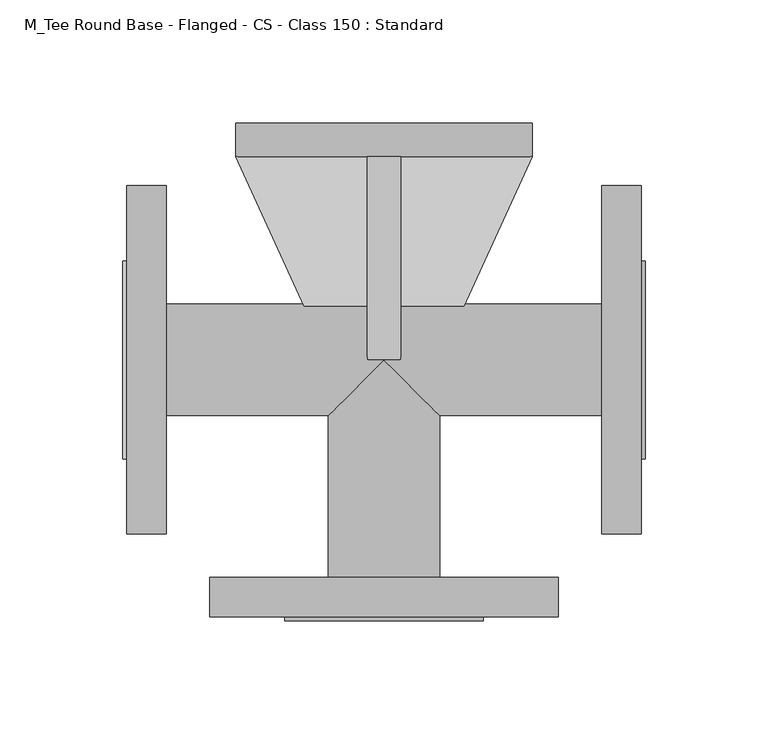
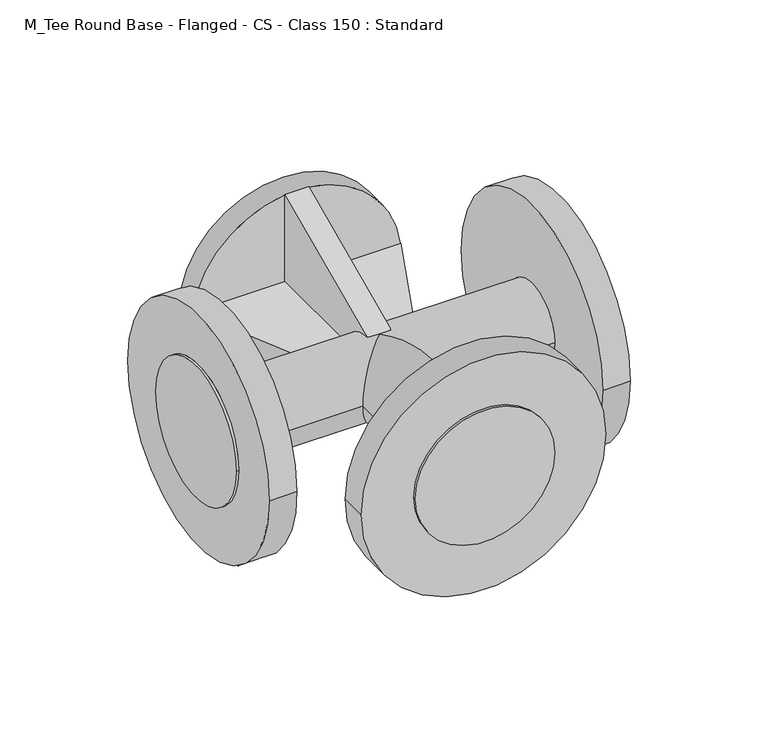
"""IFC4 building model written with IfcOpenShell, lengths in millimetres: pipe fitting geometry, M_Tee Round Base - Flanged - CS - Class 150 : Standard."""

import ifcopenshell
import ifcopenshell.guid

model = None  # the IFC model being written
_history = None  # IfcOwnerHistory: only IFC2X3 demands one
_inside = {}  # id of a spatial element -> (the spatial element, [elements in it])
_under = {}  # id of a project, library or spatial element -> (it, [spatial elements below it])
_declared = {}  # id of a project -> (the project, [libraries it declares])
_typed = {}  # id of a type object -> (the type object, [elements of that type])
_made_of = {}  # id of a material, layer set ... -> (it, [elements and type objects made of it])


def new_model(schema):
    """Start an empty IFC model of exactly this schema.

    Asked for "IFC4X3", IfcOpenShell would pick the latest addendum, in which some entities
    have other attributes; the version numbers below select the first issue.
    IFC2X3 requires an IfcOwnerHistory on every rooted entity: one is made here for all.
    """
    global model, _history
    if schema == "IFC4X3":
        model = ifcopenshell.file(schema_version=(4, 3, 0, 0))
    else:
        model = ifcopenshell.file(schema=schema)
    _inside.clear()
    _under.clear()
    _declared.clear()
    _typed.clear()
    _made_of.clear()
    _history = None
    if model.schema == "IFC2X3":
        org = make("IfcOrganization", Name="unknown")
        user = make(
            "IfcPersonAndOrganization",
            ThePerson=make("IfcPerson", FamilyName="unknown"),
            TheOrganization=org,
        )
        app = make(
            "IfcApplication",
            ApplicationDeveloper=org,
            Version="unknown",
            ApplicationFullName="unknown",
            ApplicationIdentifier="unknown",
        )
        _history = make(
            "IfcOwnerHistory",
            OwningUser=user,
            OwningApplication=app,
            ChangeAction="ADDED",
            CreationDate=0,
        )
    return model


def make(cls, **values):
    """One entity of the class cls with the attributes given. An attribute that is None is left unset."""
    return model.create_entity(
        cls, **{name: value for name, value in values.items() if value is not None}
    )


def rooted(cls, **values):
    """An entity with a GlobalId (a new one), such as an element, a storey or a relation."""
    return make(cls, GlobalId=ifcopenshell.guid.new(), OwnerHistory=_history, **values)


def si_unit(unit_type, name, prefix=None):
    """IfcSIUnit, for example si_unit("LENGTHUNIT", "METRE", prefix="MILLI")."""
    return make("IfcSIUnit", UnitType=unit_type, Prefix=prefix, Name=name)


def assignment(units):
    """IfcUnitAssignment: the units of a project."""
    return None if units is None else make("IfcUnitAssignment", Units=units)


def point(xyz):
    """IfcCartesianPoint."""
    return None if xyz is None else make("IfcCartesianPoint", Coordinates=xyz)


def direction(xyz):
    """IfcDirection."""
    return None if xyz is None else make("IfcDirection", DirectionRatios=xyz)


def frame(location, z_axis=None, x_axis=None):
    """IfcAxis2Placement3D, a coordinate frame: its origin and axes. An axis left out is left unset."""
    return make(
        "IfcAxis2Placement3D",
        Location=point(location),
        Axis=direction(z_axis),
        RefDirection=direction(x_axis),
    )


def origin():
    """The frame at (0, 0, 0) with its axes left unset."""
    return frame((0.0, 0.0, 0.0))


def place(relative_to, where):
    """IfcLocalPlacement: puts the frame where relative to a parent placement (None: the world)."""
    return make(
        "IfcLocalPlacement", PlacementRelTo=relative_to, RelativePlacement=where
    )


def context(
    kind, dimensions, precision=None, world=None, true_north=None, identifier=None
):
    """IfcGeometricRepresentationContext, for example the 3D "Model" context."""
    return make(
        "IfcGeometricRepresentationContext",
        ContextIdentifier=identifier,
        ContextType=kind,
        CoordinateSpaceDimension=dimensions,
        Precision=precision,
        WorldCoordinateSystem=world,
        TrueNorth=true_north,
    )


def project(units=None, contexts=None):
    """IfcProject with its units and contexts."""
    return rooted(
        "IfcProject",
        Name="project",
        RepresentationContexts=contexts,
        UnitsInContext=assignment(units),
    )


def spatial(cls, under=None, at=None, **own):
    """A site, building, storey or space (cls), placed at a placement, below another one or the project."""
    s = rooted(cls, ObjectPlacement=at, **own)
    if under is not None:
        _under.setdefault(under.id(), (under, []))[1].append(s)
    return s


def circle_curve(where, radius):
    """IfcCircle in the frame where."""
    return make("IfcCircle", Position=where, Radius=radius)


def ellipse_curve(where, semi_axis1, semi_axis2):
    """IfcEllipse in the frame where."""
    return make(
        "IfcEllipse", Position=where, SemiAxis1=semi_axis1, SemiAxis2=semi_axis2
    )


def shape(context_of_items, identifier, shape_type, items):
    """IfcShapeRepresentation: the items that make up one representation, for example the "Body"."""
    return make(
        "IfcShapeRepresentation",
        ContextOfItems=context_of_items,
        RepresentationIdentifier=identifier,
        RepresentationType=shape_type,
        Items=items,
    )


def source(mapping_origin, context_of_items, identifier, shape_type, items):
    """IfcRepresentationMap: a shape defined once, which mapped items show again and again."""
    return make(
        "IfcRepresentationMap",
        MappingOrigin=mapping_origin,
        MappedRepresentation=shape(context_of_items, identifier, shape_type, items),
    )


def transform(
    local_origin,
    x_axis=None,
    y_axis=None,
    z_axis=None,
    scale=None,
    scale2=None,
    scale3=None,
    uniform=True,
):
    """IfcCartesianTransformationOperator3D, or its non-uniform kind. x_axis, y_axis, z_axis: its Axis1, 2, 3."""
    if uniform:
        return make(
            "IfcCartesianTransformationOperator3D",
            Axis1=direction(x_axis),
            Axis2=direction(y_axis),
            LocalOrigin=point(local_origin),
            Scale=scale,
            Axis3=direction(z_axis),
        )
    return make(
        "IfcCartesianTransformationOperator3DnonUniform",
        Axis1=direction(x_axis),
        Axis2=direction(y_axis),
        LocalOrigin=point(local_origin),
        Scale=scale,
        Axis3=direction(z_axis),
        Scale2=scale2,
        Scale3=scale3,
    )


def mapped(mapping_source, mapping_target):
    """IfcMappedItem: shows the shape of a source again, moved by a transform."""
    return make(
        "IfcMappedItem", MappingSource=mapping_source, MappingTarget=mapping_target
    )


def made_of(thing, what):
    """Note that an element or type object is made of a material, layer set ...; save() writes the relation."""
    if what is not None:
        _made_of.setdefault(what.id(), (what, []))[1].append(thing)
    return thing


def element(
    cls,
    number,
    at=None,
    inside=None,
    cuts=None,
    type_object=None,
    material=None,
    context=None,
    identifier="Body",
    shape_type=None,
    held_by="IfcProductDefinitionShape",
    body=None,
    shapes=None,
    **own,
):
    """One element of the class cls, such as IfcWall. Its Tag is "e" and its number.

    at: its placement. inside: the storey or other place that contains it. cuts: it is an
    opening in that element (IfcRelVoidsElement). A single representation is given by context,
    identifier, shape_type and body (its items); several are given by shapes. held_by: the class
    of the entity that holds the representations. save() writes the other relations.
    """
    e = rooted(cls, Tag="e%d" % number, ObjectPlacement=at, **own)
    if body is not None:
        shapes = [shape(context, identifier, shape_type, body)]
    if shapes is not None:
        e.Representation = make(held_by, Representations=shapes)
    if inside is not None:
        _inside.setdefault(inside.id(), (inside, []))[1].append(e)
    if cuts is not None:
        rooted(
            "IfcRelVoidsElement", RelatingBuildingElement=cuts, RelatedOpeningElement=e
        )
    if type_object is not None:
        _typed.setdefault(type_object.id(), (type_object, []))[1].append(e)
    return made_of(e, material)


def aggregate(whole, parts):
    """IfcRelAggregates: a whole, such as a stair, and the parts it consists of."""
    return rooted("IfcRelAggregates", RelatingObject=whole, RelatedObjects=parts)


def save(model, path):
    """Write the relations noted so far, then the file.

    IfcRelAggregates (storeys below a building ...), IfcRelContainedInSpatialStructure (elements
    in a storey), IfcRelDefinesByType, IfcRelAssociatesMaterial and IfcRelDeclares: one each for
    every whole, place, type object, material and project.
    """
    for whole, parts in _under.values():
        aggregate(whole, parts)
    for where, things in _inside.values():
        rooted(
            "IfcRelContainedInSpatialStructure",
            RelatedElements=things,
            RelatingStructure=where,
        )
    for kind, things in _typed.values():
        rooted("IfcRelDefinesByType", RelatedObjects=things, RelatingType=kind)
    for what, things in _made_of.values():
        rooted("IfcRelAssociatesMaterial", RelatedObjects=things, RelatingMaterial=what)
    for by, libraries in _declared.values():
        rooted("IfcRelDeclares", RelatingContext=by, RelatedDefinitions=libraries)
    model.write(path)


def plane_surface(at):
    """IfcPlane: the flat surface through the origin of the frame at, square to its z axis."""
    return make("IfcPlane", Position=at)


def cylinder_surface(at, radius):
    """IfcCylindricalSurface: all points at the distance radius from the z axis of the frame at."""
    return make("IfcCylindricalSurface", Position=at, Radius=radius)


def advanced_brep(points, edges, surfaces, faces):
    """IfcAdvancedBrep: a solid bounded by faces that lie on surfaces and meet in shared edges.

    An edge is (start, end): straight between two places in points (the first is 0);
    or (start, end, curve); or (start, end, curve, False) where it runs against its curve.
    A face is (place in surfaces, loops), or (place, loops, False) where it looks against
    its surface's normal. A loop lists edges by number (the first is 1), with a minus sign
    where the edge is run from its end to its start. The first loop is the outer one.
    """
    corners = [point(p) for p in points]
    vertices = [make("IfcVertexPoint", VertexGeometry=c) for c in corners]
    made = []
    for start, end, *more in edges:
        made.append(
            make(
                "IfcEdgeCurve",
                EdgeStart=vertices[start],
                EdgeEnd=vertices[end],
                EdgeGeometry=more[0] if more else make("IfcPolyline", Points=[corners[start], corners[end]]),
                SameSense=more[1] if len(more) > 1 else True,
            )
        )
    hull = []
    for where, loops, *sense in faces:
        bounds = []
        for j, loop in enumerate(loops):
            ring = [make("IfcOrientedEdge", EdgeElement=made[abs(k) - 1], Orientation=k > 0) for k in loop]
            bounds.append(
                make(
                    "IfcFaceOuterBound" if j == 0 else "IfcFaceBound",
                    Bound=make("IfcEdgeLoop", EdgeList=ring),
                    Orientation=True,
                )
            )
        hull.append(make("IfcAdvancedFace", Bounds=bounds, FaceSurface=surfaces[where], SameSense=sense[0] if sense else True))
    return make("IfcAdvancedBrep", Outer=make("IfcClosedShell", CfsFaces=hull))


def m_tee_round_base_flanged_cs_class_150_standard_9c9133d0(model_context):
    return source(origin(), model_context, "Body", "AdvancedBrep", [
        advanced_brep(
        [(88.524375, -22.6588281, 0.0), (88.524375, 22.6588281, 0.0), (32.9704859, 22.6588281, 0.0), (32.4837149, 21.5891979, 6.8796094), (6.8796094, 21.5891979, 6.8796094), (6.8796094, 0.0, 22.6588281), (0.0, 0.0, 22.6588281), (22.6588281, -22.6588281, 0.0), (0.0, 0.0, -22.6588281), (6.8796094, 0.0, -22.6588281), (6.8796094, 21.5891979, -6.8796094), (32.4837149, 21.5891979, -6.8796094), (-88.524375, 22.6588281, 0.0), (-88.524375, -22.6588281, 0.0), (-22.6588281, -22.6588281, 0.0), (-6.8796094, 0.0, 22.6588281), (-6.8796094, 21.5891979, 6.8796094), (-32.4837149, 21.5891979, 6.8796094), (-32.9704859, 22.6588281, 0.0), (-32.4837149, 21.5891979, -6.8796094), (-6.8796094, 21.5891979, -6.8796094), (-6.8796094, 0.0, -22.6588281), (-104.5110937, -70.8433594, 0.0), (-104.5110937, 70.8433594, 0.0), (-104.5110937, 40.2714844, 0.0), (-104.5110937, -40.2714844, 0.0), (-88.524375, -70.8433594, 0.0), (-88.524375, 70.8433594, 0.0), (88.524375, -70.8433594, 0.0), (88.524375, 70.8433594, 0.0), (104.5110937, -70.8433594, 0.0), (104.5110937, 70.8433594, 0.0), (104.5110937, -40.2714844, 0.0), (104.5110937, 40.2714844, 0.0), (-106.0985937, 40.2714844, 0.0), (-106.0985937, -40.2714844, 0.0), (106.0985938, -40.2714844, 0.0), (106.0985938, 40.2714844, 0.0), (22.6588281, -88.524375, 0.0), (-22.6588281, -88.524375, 0.0), (-70.8433594, -88.524375, 0.0), (70.8433594, -88.524375, 0.0), (-70.8433594, -104.5110938, 0.0), (70.8433594, -104.5110938, 0.0), (-40.2714844, -104.5110938, 0.0), (40.2714844, -104.5110938, 0.0), (-40.2714844, -106.0985938, 0.0), (40.2714844, -106.0985938, 0.0), (-60.2547656, 82.6132812, 6.8796094), (-6.8796094, 82.6132812, 6.8796094), (-59.8607363, 82.6132812, 6.8796094), (60.2547656, 82.6132812, 6.8796094), (59.8607363, 82.6132812, 6.8796094), (6.8796094, 82.6132812, 6.8796094), (60.2547656, 82.6132812, -6.8796094), (6.8796094, 82.6132812, -6.8796094), (59.8607363, 82.6132812, -6.8796094), (-60.2547656, 82.6132812, -6.8796094), (-59.8607363, 82.6132812, -6.8796094), (-6.8796094, 82.6132812, -6.8796094), (-60.2547656, 82.6132812, 0.0), (60.2547656, 82.6132812, 0.0), (6.8796094, 82.6132812, -60.2547656), (0.0, 82.6132812, -60.2547656), (6.8796094, 82.6132812, -59.8607363), (-6.8796094, 82.6132812, -60.2547656), (-6.8796094, 82.6132812, -59.8607363), (6.8796094, 82.6132812, 60.2547656), (6.8796094, 82.6132812, 59.8607363), (0.0, 82.6132812, 60.2547656), (-6.8796094, 82.6132812, 59.8607363), (-6.8796094, 82.6132812, 60.2547656), (-60.2547656, 96.3725, 0.0), (60.2547656, 96.3725, 0.0)],
        [
            (0, 1, circle_curve(frame((88.524375, 0.0, 0.0), z_axis=(-1.0, 0.0, 0.0), x_axis=(0.0, 1.0, 0.0)), 22.6588281)),
            (1, 2),
            (2, 3, ellipse_curve(frame((22.6588281, 0.0, 0.0), z_axis=(0.9101819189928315, -0.41420873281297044, 0.0), x_axis=(-0.41420873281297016, -0.9101819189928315, 0.0)), 24.8948344, 22.6588281)),
            (3, 4),
            (4, 5, circle_curve(frame((6.8796094, 0.0, 0.0), z_axis=(1.0, 0.0, 0.0), x_axis=(0.0, 1.0, 0.0)), 22.6588281)),
            (5, 6),
            (6, 7, ellipse_curve(frame((0.0, 0.0, 0.0), z_axis=(0.7071067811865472, 0.7071067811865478, 0.0), x_axis=(-0.7071067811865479, 0.7071067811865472, 0.0)), 32.044422, 22.6588281)),
            (7, 0),
            (1, 0, circle_curve(frame((88.524375, 0.0, 0.0), z_axis=(-1.0, 0.0, 0.0), x_axis=(0.0, 1.0, 0.0)), 22.6588281)),
            (7, 8, ellipse_curve(frame((0.0, 0.0, 0.0), z_axis=(0.7071067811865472, 0.7071067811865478, 0.0), x_axis=(-0.7071067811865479, 0.7071067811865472, 0.0)), 32.044422, 22.6588281)),
            (8, 9),
            (9, 10, circle_curve(frame((6.8796094, 0.0, 0.0), z_axis=(1.0, 0.0, 0.0), x_axis=(0.0, 1.0, 0.0)), 22.6588281)),
            (10, 11),
            (11, 2, ellipse_curve(frame((22.6588281, 0.0, 0.0), z_axis=(0.9101819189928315, -0.41420873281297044, 0.0), x_axis=(-0.41420873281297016, -0.9101819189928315, 0.0)), 24.8948344, 22.6588281)),
            (12, 13, circle_curve(frame((-88.524375, 0.0, 0.0), z_axis=(1.0, 0.0, 0.0), x_axis=(0.0, 1.0, 0.0)), 22.6588281)),
            (13, 14),
            (14, 6, ellipse_curve(frame((0.0, 0.0, 0.0), z_axis=(-0.7071067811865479, 0.7071067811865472, 0.0), x_axis=(-0.707106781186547, -0.7071067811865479, 0.0)), 32.044422, 22.6588281)),
            (6, 15),
            (15, 16, circle_curve(frame((-6.8796094, 0.0, 0.0), z_axis=(-1.0, 0.0, 0.0), x_axis=(0.0, 1.0, 0.0)), 22.6588281)),
            (16, 17),
            (17, 18, ellipse_curve(frame((-22.6588281, 0.0, 0.0), z_axis=(-0.9101819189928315, -0.4142087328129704, 0.0), x_axis=(-0.41420873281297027, 0.9101819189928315, 0.0)), 24.8948344, 22.6588281)),
            (18, 12),
            (13, 12, circle_curve(frame((-88.524375, 0.0, 0.0), z_axis=(1.0, 0.0, 0.0), x_axis=(0.0, 1.0, 0.0)), 22.6588281)),
            (18, 19, ellipse_curve(frame((-22.6588281, 0.0, 0.0), z_axis=(-0.9101819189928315, -0.4142087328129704, 0.0), x_axis=(-0.41420873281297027, 0.9101819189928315, 0.0)), 24.8948344, 22.6588281)),
            (19, 20),
            (20, 21, circle_curve(frame((-6.8796094, 0.0, 0.0), z_axis=(-1.0, 0.0, 0.0), x_axis=(0.0, 1.0, 0.0)), 22.6588281)),
            (21, 8),
            (8, 14, ellipse_curve(frame((0.0, 0.0, 0.0), z_axis=(-0.7071067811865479, 0.7071067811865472, 0.0), x_axis=(-0.707106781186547, -0.7071067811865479, 0.0)), 32.044422, 22.6588281)),
            (22, 23, circle_curve(frame((-104.5110937, 0.0, 0.0), z_axis=(-1.0, 0.0, 0.0), x_axis=(0.0, 1.0, 0.0)), 70.8433594)),
            (23, 22, circle_curve(frame((-104.5110937, 0.0, 0.0), z_axis=(-1.0, 0.0, 0.0), x_axis=(0.0, 1.0, 0.0)), 70.8433594)),
            (24, 25, circle_curve(frame((-104.5110937, 0.0, 0.0), z_axis=(1.0, 0.0, 0.0), x_axis=(0.0, -1.0, 0.0)), 40.2714844)),
            (25, 24, circle_curve(frame((-104.5110937, 0.0, 0.0), z_axis=(1.0, 0.0, 0.0), x_axis=(0.0, -1.0, 0.0)), 40.2714844)),
            (26, 27, circle_curve(frame((-88.524375, 0.0, 0.0), z_axis=(1.0, 0.0, 0.0), x_axis=(0.0, 1.0, 0.0)), 70.8433594)),
            (27, 26, circle_curve(frame((-88.524375, 0.0, 0.0), z_axis=(1.0, 0.0, 0.0), x_axis=(0.0, 1.0, 0.0)), 70.8433594)),
            (22, 26),
            (27, 23),
            (28, 29, circle_curve(frame((88.524375, 0.0, 0.0), z_axis=(-1.0, 0.0, 0.0), x_axis=(0.0, 1.0, 0.0)), 70.8433594)),
            (29, 28, circle_curve(frame((88.524375, 0.0, 0.0), z_axis=(-1.0, 0.0, 0.0), x_axis=(0.0, 1.0, 0.0)), 70.8433594)),
            (30, 31, circle_curve(frame((104.5110937, 0.0, 0.0), z_axis=(1.0, 0.0, 0.0), x_axis=(0.0, 1.0, 0.0)), 70.8433594)),
            (31, 30, circle_curve(frame((104.5110937, 0.0, 0.0), z_axis=(1.0, 0.0, 0.0), x_axis=(0.0, 1.0, 0.0)), 70.8433594)),
            (32, 33, circle_curve(frame((104.5110937, 0.0, 0.0), z_axis=(-1.0, 0.0, 0.0), x_axis=(0.0, 1.0, 0.0)), 40.2714844)),
            (33, 32, circle_curve(frame((104.5110937, 0.0, 0.0), z_axis=(-1.0, 0.0, 0.0), x_axis=(0.0, 1.0, 0.0)), 40.2714844)),
            (28, 30),
            (31, 29),
            (34, 35, circle_curve(frame((-106.0985937, 0.0, 0.0), z_axis=(-1.0, 0.0, 0.0), x_axis=(0.0, -1.0, 0.0)), 40.2714844)),
            (35, 34, circle_curve(frame((-106.0985937, 0.0, 0.0), z_axis=(-1.0, 0.0, 0.0), x_axis=(0.0, -1.0, 0.0)), 40.2714844)),
            (35, 25),
            (24, 34),
            (36, 37, circle_curve(frame((106.0985938, 0.0, 0.0), z_axis=(1.0, 0.0, 0.0), x_axis=(0.0, 1.0, 0.0)), 40.2714844)),
            (37, 36, circle_curve(frame((106.0985938, 0.0, 0.0), z_axis=(1.0, 0.0, 0.0), x_axis=(0.0, 1.0, 0.0)), 40.2714844)),
            (37, 33),
            (32, 36),
            (38, 7),
            (14, 39),
            (39, 38, circle_curve(frame((0.0, -88.524375, 0.0), z_axis=(0.0, 1.0, 0.0), x_axis=(1.0, 0.0, 0.0)), 22.6588281)),
            (38, 39, circle_curve(frame((0.0, -88.524375, 0.0), z_axis=(0.0, 1.0, 0.0), x_axis=(1.0, 0.0, 0.0)), 22.6588281)),
            (40, 41, circle_curve(frame((0.0, -88.524375, 0.0), z_axis=(0.0, 1.0, 0.0), x_axis=(1.0, 0.0, 0.0)), 70.8433594)),
            (41, 40, circle_curve(frame((0.0, -88.524375, 0.0), z_axis=(0.0, 1.0, 0.0), x_axis=(1.0, 0.0, 0.0)), 70.8433594)),
            (42, 43, circle_curve(frame((0.0, -104.5110938, 0.0), z_axis=(0.0, -1.0, 0.0), x_axis=(1.0, 0.0, 0.0)), 70.8433594)),
            (43, 42, circle_curve(frame((0.0, -104.5110938, 0.0), z_axis=(0.0, -1.0, 0.0), x_axis=(1.0, 0.0, 0.0)), 70.8433594)),
            (44, 45, circle_curve(frame((0.0, -104.5110938, 0.0), z_axis=(0.0, 1.0, 0.0), x_axis=(1.0, 0.0, 0.0)), 40.2714844)),
            (45, 44, circle_curve(frame((0.0, -104.5110938, 0.0), z_axis=(0.0, 1.0, 0.0), x_axis=(1.0, 0.0, 0.0)), 40.2714844)),
            (40, 42),
            (43, 41),
            (46, 47, circle_curve(frame((0.0, -106.0985938, 0.0), z_axis=(0.0, -1.0, 0.0), x_axis=(1.0, 0.0, 0.0)), 40.2714844)),
            (47, 46, circle_curve(frame((0.0, -106.0985938, 0.0), z_axis=(0.0, -1.0, 0.0), x_axis=(1.0, 0.0, 0.0)), 40.2714844)),
            (47, 45),
            (44, 46),
            (48, 17),
            (16, 49),
            (49, 50),
            (50, 48),
            (3, 51),
            (51, 52),
            (52, 53),
            (53, 4),
            (54, 11),
            (10, 55),
            (55, 56),
            (56, 54),
            (19, 57),
            (57, 58),
            (58, 59),
            (59, 20),
            (50, 60, circle_curve(frame((0.0, 82.6132812, 0.0), z_axis=(0.0, -1.0, 0.0), x_axis=(1.0, 0.0, 0.0)), 60.2547656)),
            (60, 48),
            (51, 61),
            (61, 52, circle_curve(frame((0.0, 82.6132812, 0.0), z_axis=(0.0, -1.0, 0.0), x_axis=(1.0, 0.0, 0.0)), 60.2547656)),
            (56, 61, circle_curve(frame((0.0, 82.6132812, 0.0), z_axis=(0.0, -1.0, 0.0), x_axis=(1.0, 0.0, 0.0)), 60.2547656)),
            (61, 54),
            (57, 60),
            (60, 58, circle_curve(frame((0.0, 82.6132812, 0.0), z_axis=(0.0, -1.0, 0.0), x_axis=(1.0, 0.0, 0.0)), 60.2547656)),
            (62, 63),
            (63, 64, circle_curve(frame((0.0, 82.6132812, 0.0), z_axis=(0.0, -1.0, 0.0), x_axis=(1.0, 0.0, 0.0)), 60.2547656)),
            (64, 62),
            (63, 65),
            (65, 66),
            (66, 63, circle_curve(frame((0.0, 82.6132812, 0.0), z_axis=(0.0, -1.0, 0.0), x_axis=(1.0, 0.0, 0.0)), 60.2547656)),
            (67, 68),
            (68, 69, circle_curve(frame((0.0, 82.6132812, 0.0), z_axis=(0.0, -1.0, 0.0), x_axis=(1.0, 0.0, 0.0)), 60.2547656)),
            (69, 67),
            (70, 71),
            (71, 69),
            (69, 70, circle_curve(frame((0.0, 82.6132812, 0.0), z_axis=(0.0, -1.0, 0.0), x_axis=(1.0, 0.0, 0.0)), 60.2547656)),
            (67, 5),
            (53, 68),
            (9, 62),
            (64, 55),
            (65, 21),
            (59, 66),
            (15, 71),
            (70, 49),
            (72, 73, circle_curve(frame((0.0, 96.3725, 0.0), z_axis=(0.0, 1.0, 0.0), x_axis=(1.0, 0.0, 0.0)), 60.2547656)),
            (73, 72, circle_curve(frame((0.0, 96.3725, 0.0), z_axis=(0.0, 1.0, 0.0), x_axis=(1.0, 0.0, 0.0)), 60.2547656)),
            (52, 68, circle_curve(frame((0.0, 82.6132812, 0.0), z_axis=(0.0, -1.0, 0.0), x_axis=(1.0, 0.0, 0.0)), 60.2547656)),
            (64, 56, circle_curve(frame((0.0, 82.6132812, 0.0), z_axis=(0.0, -1.0, 0.0), x_axis=(1.0, 0.0, 0.0)), 60.2547656)),
            (58, 66, circle_curve(frame((0.0, 82.6132812, 0.0), z_axis=(0.0, -1.0, 0.0), x_axis=(1.0, 0.0, 0.0)), 60.2547656)),
            (70, 50, circle_curve(frame((0.0, 82.6132812, 0.0), z_axis=(0.0, -1.0, 0.0), x_axis=(1.0, 0.0, 0.0)), 60.2547656)),
            (72, 60),
            (61, 73),
        ],
        [
            cylinder_surface(frame((0.0, 0.0, 0.0), z_axis=(-1.0, 0.0, 0.0), x_axis=(0.0, 1.0, 0.0)), 22.6588281),
            cylinder_surface(frame((-88.524375, 0.0, 0.0), z_axis=(-1.0, 0.0, 0.0), x_axis=(0.0, 1.0, 0.0)), 22.6588281),
            plane_surface(frame((-104.5110937, 0.0, 0.0), z_axis=(-1.0, 0.0, 0.0), x_axis=(0.0, 0.0, 1.0))),
            plane_surface(frame((-88.524375, 0.0, 0.0), z_axis=(1.0, 0.0, 0.0), x_axis=(0.0, 0.0, 1.0))),
            cylinder_surface(frame((-104.5110937, 0.0, 0.0), z_axis=(-1.0, 0.0, 0.0), x_axis=(0.0, 1.0, 0.0)), 70.8433594),
            plane_surface(frame((88.524375, 0.0, 0.0), z_axis=(-1.0, 0.0, 0.0), x_axis=(0.0, 0.0, 1.0))),
            plane_surface(frame((104.5110937, 0.0, 0.0), z_axis=(1.0, 0.0, 0.0), x_axis=(0.0, 0.0, 1.0))),
            cylinder_surface(frame((88.524375, 0.0, 0.0), z_axis=(-1.0, 0.0, 0.0), x_axis=(0.0, 1.0, 0.0)), 70.8433594),
            plane_surface(frame((-106.0985937, 0.0, 0.0), z_axis=(-1.0, 0.0, 0.0), x_axis=(0.0, 0.0, 1.0))),
            cylinder_surface(frame((-104.5110937, 0.0, 0.0), z_axis=(1.0, 0.0, 0.0), x_axis=(0.0, -1.0, 0.0)), 40.2714844),
            plane_surface(frame((106.0985938, 0.0, 0.0), z_axis=(1.0, 0.0, 0.0), x_axis=(0.0, 0.0, 1.0))),
            cylinder_surface(frame((104.5110937, 0.0, 0.0), z_axis=(-1.0, 0.0, 0.0), x_axis=(0.0, 1.0, 0.0)), 40.2714844),
            cylinder_surface(frame((0.0, 0.0, 0.0), z_axis=(0.0, 1.0, 0.0), x_axis=(1.0, 0.0, 0.0)), 22.6588281),
            plane_surface(frame((0.0, -88.524375, 0.0), z_axis=(0.0, 1.0, 0.0), x_axis=(0.0, 0.0, 1.0))),
            plane_surface(frame((0.0, -104.5110938, 0.0), z_axis=(0.0, -1.0, 0.0), x_axis=(0.0, 0.0, 1.0))),
            cylinder_surface(frame((0.0, -88.524375, 0.0), z_axis=(0.0, 1.0, 0.0), x_axis=(1.0, 0.0, 0.0)), 70.8433594),
            plane_surface(frame((0.0, -106.0985938, 0.0), z_axis=(0.0, -1.0, 0.0), x_axis=(0.0, 0.0, 1.0))),
            cylinder_surface(frame((0.0, -104.5110938, 0.0), z_axis=(0.0, 1.0, 0.0), x_axis=(1.0, 0.0, 0.0)), 40.2714844),
            plane_surface(frame((-60.2547656, 82.6132812, 6.8796094), z_axis=(0.0, 0.0, 1.0), x_axis=(-1.0, 0.0, 0.0))),
            plane_surface(frame((-60.2547656, 82.6132812, -6.8796094), z_axis=(0.0, 0.0, -1.0), x_axis=(1.0, 0.0, 0.0))),
            plane_surface(frame((60.2547656, 82.6132812, 6.8796094), z_axis=(0.0, 1.0, 0.0), x_axis=(0.0, 0.0, -1.0))),
            plane_surface(frame((-60.2547656, 82.6132812, 6.8796094), z_axis=(-0.9101819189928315, -0.4142087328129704, 0.0), x_axis=(0.0, 0.0, -1.0))),
            plane_surface(frame((22.6588281, 0.0, 6.8796094), z_axis=(0.9101819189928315, -0.41420873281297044, 0.0), x_axis=(0.0, 0.0, -1.0))),
            plane_surface(frame((6.8796094, 82.6132812, 60.2547656), z_axis=(1.0, 0.0, 0.0), x_axis=(0.0, 0.0, 1.0))),
            plane_surface(frame((-6.8796094, 82.6132812, 60.2547656), z_axis=(-1.0, 0.0, 0.0), x_axis=(0.0, 0.0, -1.0))),
            plane_surface(frame((6.8796094, 82.6132812, 60.2547656), z_axis=(0.0, -0.4142087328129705, 0.9101819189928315), x_axis=(-1.0, 0.0, 0.0))),
            plane_surface(frame((6.8796094, 0.0, -22.6588281), z_axis=(0.0, -0.41420873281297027, -0.9101819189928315), x_axis=(-1.0, 0.0, 0.0))),
            plane_surface(frame((0.0, 96.3725, 0.0), z_axis=(0.0, 1.0, 0.0), x_axis=(0.0, 0.0, 1.0))),
            plane_surface(frame((0.0, 82.6132812, 0.0), z_axis=(0.0, -1.0, 0.0), x_axis=(0.0, 0.0, 1.0))),
            cylinder_surface(frame((0.0, 96.3725, 0.0), z_axis=(0.0, 1.0, 0.0), x_axis=(1.0, 0.0, 0.0)), 60.2547656),
        ],
        [
            (0, [[1, 2, 3, 4, 5, 6, 7, 8]]),
            (0, [[9, -8, 10, 11, 12, 13, 14, -2]]),
            (1, [[15, 16, 17, 18, 19, 20, 21, 22]]),
            (1, [[23, -22, 24, 25, 26, 27, 28, -16]]),
            (2, [[29, 30], [31, 32]]),
            (3, [[33, 34], [-15, -23]]),
            (4, [[-29, 35, -34, 36]]),
            (4, [[-30, -36, -33, -35]]),
            (5, [[37, 38], [-1, -9]]),
            (6, [[39, 40], [41, 42]]),
            (7, [[-37, 43, -40, 44]]),
            (7, [[-38, -44, -39, -43]]),
            (8, [[45, 46]]),
            (9, [[-46, 47, -31, 48]]),
            (9, [[-45, -48, -32, -47]]),
            (10, [[49, 50]]),
            (11, [[-50, 51, -41, 52]]),
            (11, [[-49, -52, -42, -51]]),
            (12, [[53, -7, -17, 54, 55]]),
            (12, [[-53, 56, -54, -28, -10]]),
            (13, [[57, 58], [-55, -56]]),
            (14, [[59, 60], [61, 62]]),
            (15, [[-57, 63, -60, 64]]),
            (15, [[-58, -64, -59, -63]]),
            (16, [[65, 66]]),
            (17, [[-66, 67, -61, 68]]),
            (17, [[-65, -68, -62, -67]]),
            (18, [[69, -20, 70, 71, 72]]),
            (18, [[73, 74, 75, 76, -4]]),
            (19, [[77, -13, 78, 79, 80]]),
            (19, [[81, 82, 83, 84, -25]]),
            (20, [[-72, 85, 86]]),
            (20, [[-74, 87, 88]]),
            (20, [[-80, 89, 90]]),
            (20, [[-82, 91, 92]]),
            (20, [[93, 94, 95]]),
            (20, [[96, 97, 98]]),
            (20, [[99, 100, 101]]),
            (20, [[102, 103, 104]]),
            (21, [[-69, -86, -91, -81, -24, -21]]),
            (22, [[-73, -3, -14, -77, -90, -87]]),
            (23, [[105, -5, -76, 106, -99]]),
            (23, [[107, -95, 108, -78, -12]]),
            (24, [[109, -26, -84, 110, -97]]),
            (24, [[111, -102, 112, -70, -19]]),
            (25, [[-105, -101, -103, -111, -18, -6]]),
            (26, [[-107, -11, -27, -109, -96, -93]]),
            (27, [[113, 114]]),
            (28, [[115, -106, -75]]),
            (28, [[116, -79, -108]]),
            (28, [[117, -110, -83]]),
            (28, [[118, -71, -112]]),
            (29, [[-113, 119, -85, -118, -104, -100, -115, -88, 120]]),
            (29, [[-114, -120, -89, -116, -94, -98, -117, -92, -119]]),
        ],
    ),
    ])


if __name__ == "__main__":
    model = new_model("IFC4")
    model_context = context("Model", 3, world=origin())
    ifc_project = project(units=[si_unit("LENGTHUNIT", "METRE", prefix="MILLI")], contexts=[model_context])
    site = spatial("IfcSite", under=ifc_project)
    building = spatial("IfcBuilding", under=site)
    placement = place(None, origin())
    m_tee_round_base_flanged_cs_class_150_standard_shape = m_tee_round_base_flanged_cs_class_150_standard_9c9133d0(model_context)
    element("IfcPipeFitting", 1, ObjectType="M_Tee Round Base - Flanged - CS - Class 150 : Standard", at=placement, inside=building, context=model_context, shape_type="MappedRepresentation", body=[
        mapped(m_tee_round_base_flanged_cs_class_150_standard_shape, transform((0.0, 0.0, 0.0), x_axis=(1.0, 0.0, 0.0), y_axis=(0.0, 1.0, 0.0), z_axis=(0.0, 0.0, 1.0))),
    ])
    save(model, "model.ifc")
